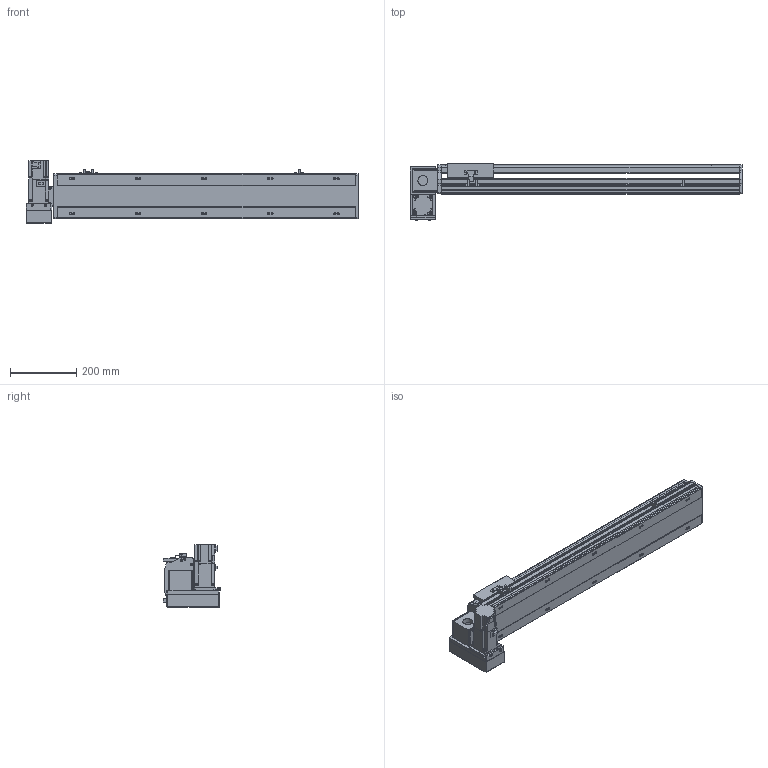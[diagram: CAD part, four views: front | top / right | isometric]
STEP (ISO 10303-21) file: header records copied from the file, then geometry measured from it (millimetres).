
FILE_DESCRIPTION(/* description */ ('STEP AP214'),/* implementation_level */ '2;1');
FILE_NAME(/* name */ 'PBS140S-P40-S650-LD-T40-C1-N(0)',/* time_stamp */ '2022-06-09T02:24:12+02:00',/* author */ ('License CC BY-ND 4.0'),/* organization */ ('CADENAS'),/* preprocessor_version */ 'ST-DEVELOPER v18.102',/* originating_system */ 'PARTsolutions',/* authorisation */ ' ');
FILE_SCHEMA (('AUTOMOTIVE_DESIGN {1 0 10303 214 3 1 1}'));
Length unit declared in the file: millimetre
Products named in the file (7): PBS140S-P40-S650-LD-T40-C1-N(0); PBS140S_sensor; PBS140S_plant; PBS140S_sliser; T40-p1; PBS140ST-LD_motors; PBS140S-S650()_body
Assembly tree (8 placements, depth 2):
  PBS140S-P40-S650-LD-T40-C1-N(0)
    PBS140S_sensor  x3
    PBS140S_plant
    PBS140S_sliser
    T40-p1
    PBS140ST-LD_motors
    PBS140S-S650()_body
Bounding box: 1004 x 172.5 x 189.7 mm (x, y, z)
Volume: 5447152.4 mm3; surface area: 957678.8 mm2
Topology: 8 solids, 8 shells, 1051 faces, 2791 edges, 1827 vertices
Faces by surface type: plane 684, cylinder 321, cone 36, sphere 8, torus 2
Full cylindrical faces by diameter (mm): 3.242 x4, 4 x2, 4.134 x4, 4.4 x8, 4.5 x2, 4.8 x4, 4.917 x18, 5.5 x7, 6 x2, 7 x12, 7.5 x8, 8 x12, 8.5 x4, 10.5 x10, 14 x1, 30 x2, 50 x2
Entity records: 30122 total; most frequent: CARTESIAN_POINT 5480, DIRECTION 5138, ORIENTED_EDGE 4882, EDGE_CURVE 2441, AXIS2_PLACEMENT_3D 1769, VERTEX_POINT 1681, LINE 1600, VECTOR 1600
